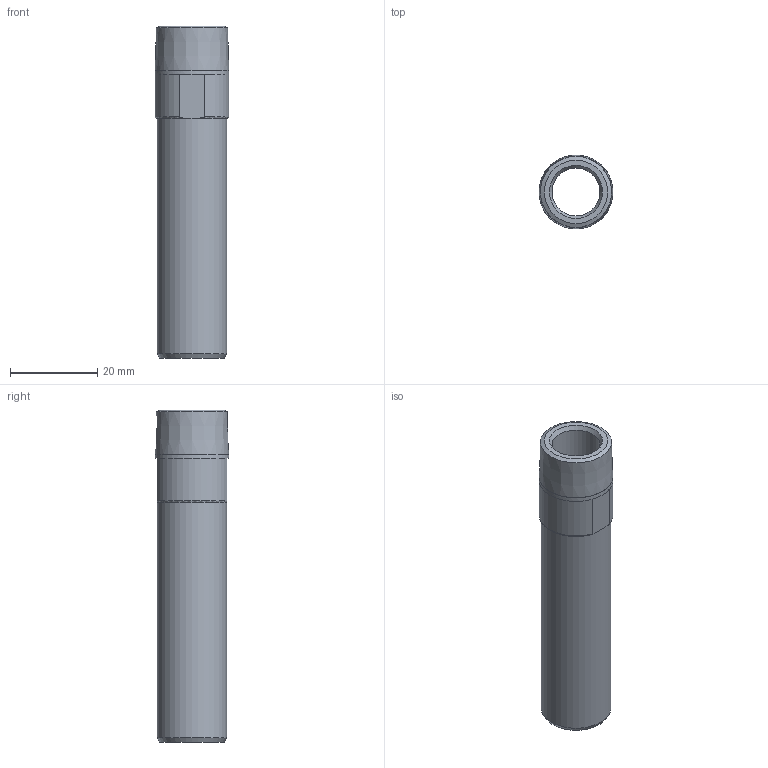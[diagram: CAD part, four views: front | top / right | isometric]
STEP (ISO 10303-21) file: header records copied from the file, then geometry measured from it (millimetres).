
FILE_DESCRIPTION( ( 'STEP AP214' ), '1' );
FILE_NAME( ' ', ' ', ( ' ' ), ( ' ' ), 'PSStep 11.0', 'VISI 17.0', ' ' );
FILE_SCHEMA( ( 'AUTOMOTIVE_DESIGN { 1 0 10303 214 1 1 1 1 }' ) );
Length unit declared in the file: millimetre
Products named in the file (2): 1; 2
Bounding box: 16.9 x 16.96 x 76.1 mm (x, y, z)
Volume: 7246.7 mm3; surface area: 7915.5 mm2
Topology: 2 solids, 2 shells, 25 faces, 53 edges, 32 vertices
Faces by surface type: plane 10, cone 7, cylinder 5, torus 3
Full cylindrical faces by diameter (mm): 11 x1, 12 x1, 16 x1
Entity records: 857 total; most frequent: CARTESIAN_POINT 137, DIRECTION 112, ORIENTED_EDGE 76, AXIS2_PLACEMENT_3D 51, EDGE_LOOP 40, EDGE_CURVE 38, FACE_OUTER_BOUND 29, VERTEX_POINT 28
